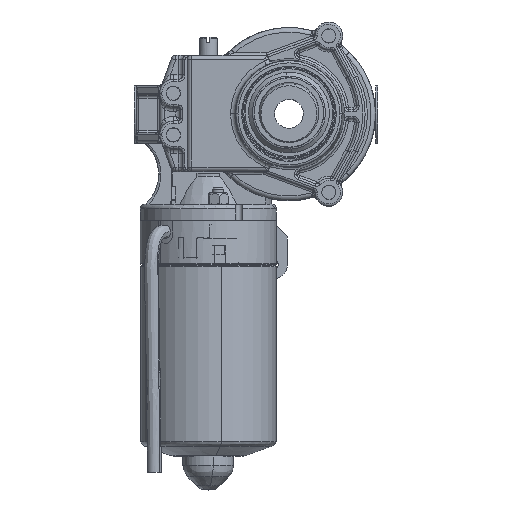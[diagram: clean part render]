
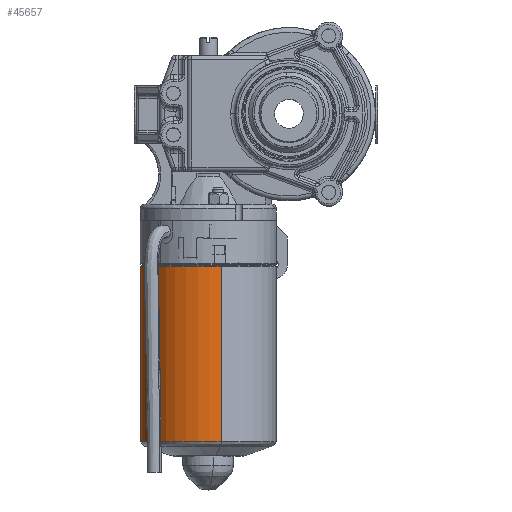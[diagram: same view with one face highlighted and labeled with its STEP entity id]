
A CAD part, top view. The second image highlights one B-rep face of the part: STEP entity #45657.
In plain terms, the highlighted cylindrical face has radius 29.35 mm (diameter 58.7 mm), a partial arc.
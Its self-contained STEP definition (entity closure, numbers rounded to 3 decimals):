
#44975 = VERTEX_POINT ( 'NONE', #59056 ) ;
#44979 = EDGE_CURVE ( 'NONE', #44980, #44975, #59050, .T. ) ;
#44980 = VERTEX_POINT ( 'NONE', #59042 ) ;
#45023 = VERTEX_POINT ( 'NONE', #59123 ) ;
#45025 = VERTEX_POINT ( 'NONE', #59121 ) ;
#45167 = EDGE_CURVE ( 'NONE', #45023, #45025, #59683, .T. ) ;
#45325 = EDGE_CURVE ( 'NONE', #44980, #45025, #60317, .T. ) ;
#45331 = EDGE_CURVE ( 'NONE', #44975, #45023, #60297, .T. ) ;
#45529 = ORIENTED_EDGE ( 'NONE', *, *, #44979, .T. ) ;
#45530 = ORIENTED_EDGE ( 'NONE', *, *, #45331, .T. ) ;
#45623 = ORIENTED_EDGE ( 'NONE', *, *, #45167, .T. ) ;
#45657 = ADVANCED_FACE ( 'NONE', ( #61259 ), #61257, .T. ) ;
#45659 = EDGE_LOOP ( 'NONE', ( #45660, #45529, #45530, #45623 ) ) ;
#45660 = ORIENTED_EDGE ( 'NONE', *, *, #45325, .F. ) ;
#59042 = CARTESIAN_POINT ( 'NONE',  ( 29.35, 0., 76.336 ) ) ;
#59045 = DIRECTION ( 'NONE',  ( 1., 0., 0. ) ) ;
#59046 = DIRECTION ( 'NONE',  ( 0., 0., -1. ) ) ;
#59048 = CARTESIAN_POINT ( 'NONE',  ( 0., 0., 76.336 ) ) ;
#59049 = AXIS2_PLACEMENT_3D ( 'NONE', #59048, #59046, #59045 ) ;
#59050 = CIRCLE ( 'NONE', #59049, 29.35 ) ;
#59056 = CARTESIAN_POINT ( 'NONE',  ( -29.35, 0., 76.336 ) ) ;
#59121 = CARTESIAN_POINT ( 'NONE',  ( 29.35, 0., 0.473 ) ) ;
#59123 = CARTESIAN_POINT ( 'NONE',  ( -29.35, 0., 0.473 ) ) ;
#59673 = DIRECTION ( 'NONE',  ( 0., 0., 1. ) ) ;
#59675 = CARTESIAN_POINT ( 'NONE',  ( 0., 0., 0.473 ) ) ;
#59676 = AXIS2_PLACEMENT_3D ( 'NONE', #59675, #59673, #59736 ) ;
#59683 = CIRCLE ( 'NONE', #59676, 29.35 ) ;
#59736 = DIRECTION ( 'NONE',  ( 1., 0., 0. ) ) ;
#60292 = DIRECTION ( 'NONE',  ( 0., 0., -1. ) ) ;
#60294 = VECTOR ( 'NONE', #60292, 1000. ) ;
#60295 = CARTESIAN_POINT ( 'NONE',  ( -29.35, 0., 97.502 ) ) ;
#60297 = LINE ( 'NONE', #60295, #60294 ) ;
#60313 = DIRECTION ( 'NONE',  ( 0., 0., -1. ) ) ;
#60315 = VECTOR ( 'NONE', #60313, 1000. ) ;
#60316 = CARTESIAN_POINT ( 'NONE',  ( 29.35, 0., 97.502 ) ) ;
#60317 = LINE ( 'NONE', #60316, #60315 ) ;
#61246 = DIRECTION ( 'NONE',  ( -1., 0., 0. ) ) ;
#61248 = DIRECTION ( 'NONE',  ( 0., 0., -1. ) ) ;
#61249 = CARTESIAN_POINT ( 'NONE',  ( 0., 0., 97.502 ) ) ;
#61251 = AXIS2_PLACEMENT_3D ( 'NONE', #61249, #61248, #61246 ) ;
#61257 = CYLINDRICAL_SURFACE ( 'NONE', #61251, 29.35 ) ;
#61259 = FACE_OUTER_BOUND ( 'NONE', #45659, .T. ) ;
